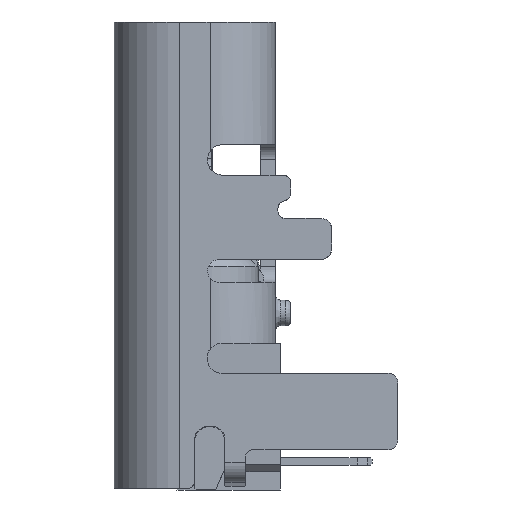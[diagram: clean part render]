
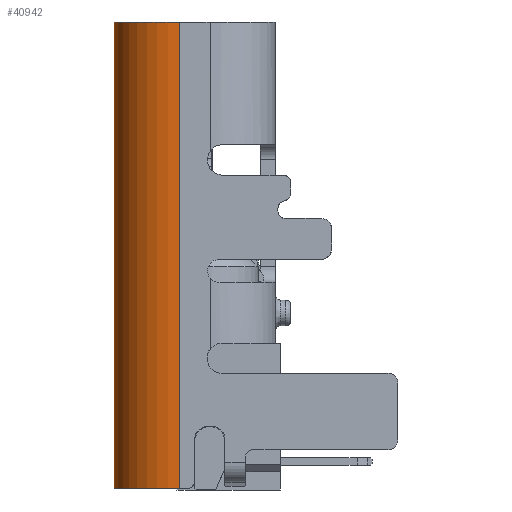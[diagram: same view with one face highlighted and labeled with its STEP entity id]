
A CAD part, left-side view. The second image highlights one B-rep face of the part: STEP entity #40942.
In plain terms, the highlighted cylindrical face has radius 1.28 mm (diameter 2.56 mm), a partial arc.
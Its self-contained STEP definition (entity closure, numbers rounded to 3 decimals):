
#4244 = CARTESIAN_POINT ( 'NONE',  ( 3.023, -6.3, 0. ) ) ;
#7049 = DIRECTION ( 'NONE',  ( 0., 0., -1. ) ) ;
#8522 = CYLINDRICAL_SURFACE ( 'NONE', #41247, 1.28 ) ;
#10048 = VERTEX_POINT ( 'NONE', #35191 ) ;
#10577 = EDGE_CURVE ( 'NONE', #49275, #57328, #46835, .T. ) ;
#11016 = EDGE_CURVE ( 'NONE', #57328, #48084, #22390, .T. ) ;
#11892 = CARTESIAN_POINT ( 'NONE',  ( 4.303, -9.665, -1.28 ) ) ;
#11990 = EDGE_CURVE ( 'NONE', #48084, #10048, #22269, .T. ) ;
#14407 = DIRECTION ( 'NONE',  ( 0., 0., -1. ) ) ;
#17132 = CARTESIAN_POINT ( 'NONE',  ( 4.303, -4.45, -1.28 ) ) ;
#17229 = FACE_OUTER_BOUND ( 'NONE', #39809, .T. ) ;
#21473 = DIRECTION ( 'NONE',  ( 0., 1., 0. ) ) ;
#22269 = CIRCLE ( 'NONE', #60879, 1.28 ) ;
#22390 = LINE ( 'NONE', #17132, #26092 ) ;
#23064 = CARTESIAN_POINT ( 'NONE',  ( 3.023, -4.45, -1.28 ) ) ;
#26092 = VECTOR ( 'NONE', #21473, 1000. ) ;
#28195 = ORIENTED_EDGE ( 'NONE', *, *, #52708, .F. ) ;
#29215 = ORIENTED_EDGE ( 'NONE', *, *, #11990, .T. ) ;
#31521 = LINE ( 'NONE', #4244, #52273 ) ;
#32077 = DIRECTION ( 'NONE',  ( 0., -1., 0. ) ) ;
#32728 = DIRECTION ( 'NONE',  ( 0., 1., 0. ) ) ;
#32797 = CARTESIAN_POINT ( 'NONE',  ( 4.303, -0.525, -1.28 ) ) ;
#35191 = CARTESIAN_POINT ( 'NONE',  ( 3.023, -0.525, 0. ) ) ;
#35504 = ORIENTED_EDGE ( 'NONE', *, *, #10577, .T. ) ;
#39809 = EDGE_LOOP ( 'NONE', ( #35504, #46118, #29215, #28195 ) ) ;
#40942 = ADVANCED_FACE ( 'NONE', ( #17229 ), #8522, .T. ) ;
#41247 = AXIS2_PLACEMENT_3D ( 'NONE', #23064, #32077, #46304 ) ;
#46118 = ORIENTED_EDGE ( 'NONE', *, *, #11016, .T. ) ;
#46304 = DIRECTION ( 'NONE',  ( 0., 0., -1. ) ) ;
#46835 = CIRCLE ( 'NONE', #56781, 1.28 ) ;
#47242 = CARTESIAN_POINT ( 'NONE',  ( 3.023, -0.525, -1.28 ) ) ;
#48084 = VERTEX_POINT ( 'NONE', #32797 ) ;
#49181 = DIRECTION ( 'NONE',  ( 0., 1., 0. ) ) ;
#49275 = VERTEX_POINT ( 'NONE', #50699 ) ;
#50699 = CARTESIAN_POINT ( 'NONE',  ( 3.023, -9.665, 0. ) ) ;
#52273 = VECTOR ( 'NONE', #32728, 1000. ) ;
#52708 = EDGE_CURVE ( 'NONE', #49275, #10048, #31521, .T. ) ;
#52795 = DIRECTION ( 'NONE',  ( 0., -1., 0. ) ) ;
#56781 = AXIS2_PLACEMENT_3D ( 'NONE', #58809, #49181, #7049 ) ;
#57328 = VERTEX_POINT ( 'NONE', #11892 ) ;
#58809 = CARTESIAN_POINT ( 'NONE',  ( 3.023, -9.665, -1.28 ) ) ;
#60879 = AXIS2_PLACEMENT_3D ( 'NONE', #47242, #52795, #14407 ) ;
